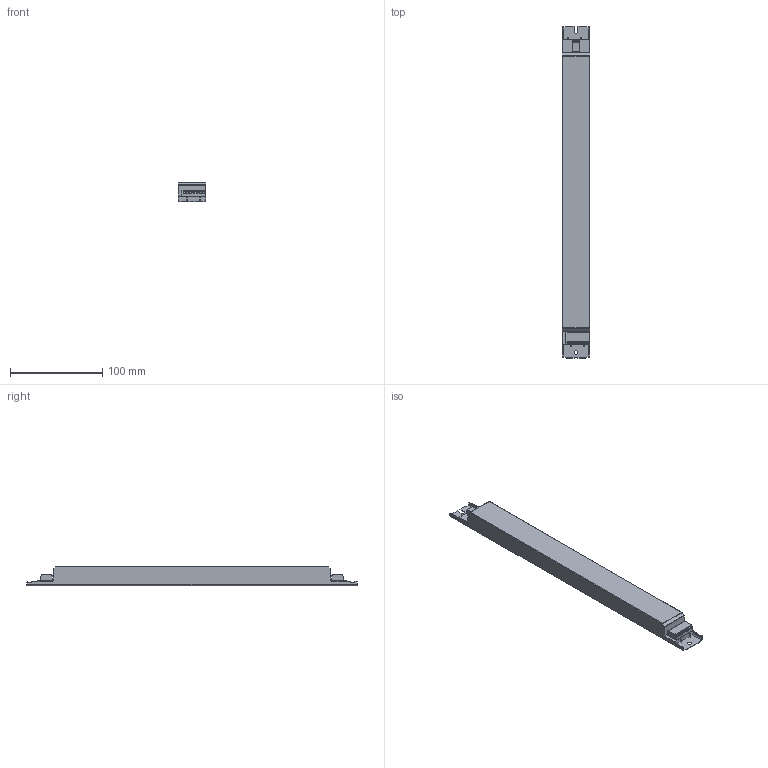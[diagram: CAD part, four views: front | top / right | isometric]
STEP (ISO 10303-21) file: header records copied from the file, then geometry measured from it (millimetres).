
FILE_DESCRIPTION((''),'2;1');
FILE_NAME('15008837Z_360X30_HYPE','2014-12-03T',('juergen.hrach'),(''),'PRO/ENGINEER BY PARAMETRIC TECHNOLOGY CORPORATION, 2014000','PRO/ENGINEER BY PARAMETRIC TECHNOLOGY CORPORATION, 2014000','');
FILE_SCHEMA(('AUTOMOTIVE_DESIGN { 1 0 10303 214 1 1 1 1 }'));
Length unit declared in the file: millimetre
Products named in the file (1): 15008837Z_360X30_HYPE
Bounding box: 30 x 360 x 21 mm (x, y, z)
Volume: 196880.3 mm3; surface area: 36228.7 mm2
Topology: 1 solids, 1 shells, 162 faces, 468 edges, 310 vertices
Faces by surface type: plane 86, cylinder 76
Entity records: 7365 total; most frequent: CARTESIAN_POINT 1235, ORIENTED_EDGE 936, DIRECTION 864, PRESENTATION_STYLE_ASSIGNMENT 471, STYLED_ITEM 469, CURVE_STYLE 468, EDGE_CURVE 468, VERTEX_POINT 310
